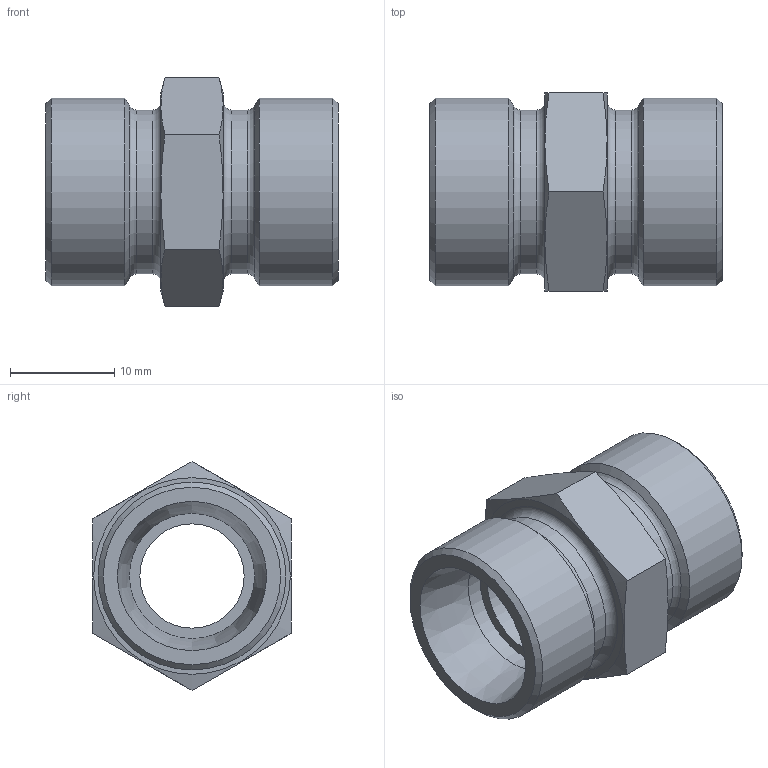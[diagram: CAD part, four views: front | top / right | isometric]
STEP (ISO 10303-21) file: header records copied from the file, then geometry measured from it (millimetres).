
FILE_DESCRIPTION( ( 'Unknown' ), '1' );
FILE_NAME( 'C:/Users/p.nanko/Desktop/3D SR/XG12L.stp', 'Unknown', ( 'Peter Nanko' ), ( 'Armaturen Arndt' ), 'PSStep 14.0', 'Solid Edge ST4', ' ' );
FILE_SCHEMA( ( 'AUTOMOTIVE_DESIGN { 1 0 10303 214 1 1 1 1 }' ) );
Length unit declared in the file: millimetre
Products named in the file (1): 1
Bounding box: 28 x 19 x 21.94 mm (x, y, z)
Volume: 4158.3 mm3; surface area: 3082.6 mm2
Topology: 1 solids, 1 shells, 31 faces, 65 edges, 40 vertices
Faces by surface type: plane 12, cone 8, cylinder 7, torus 4
Full cylindrical faces by diameter (mm): 10 x1, 12 x2, 15.7 x2, 18 x2
Entity records: 1036 total; most frequent: CARTESIAN_POINT 210, DIRECTION 118, ORIENTED_EDGE 84, AXIS2_PLACEMENT_3D 56, EDGE_LOOP 56, FACE_OUTER_BOUND 42, EDGE_CURVE 42, VERTEX_POINT 36
